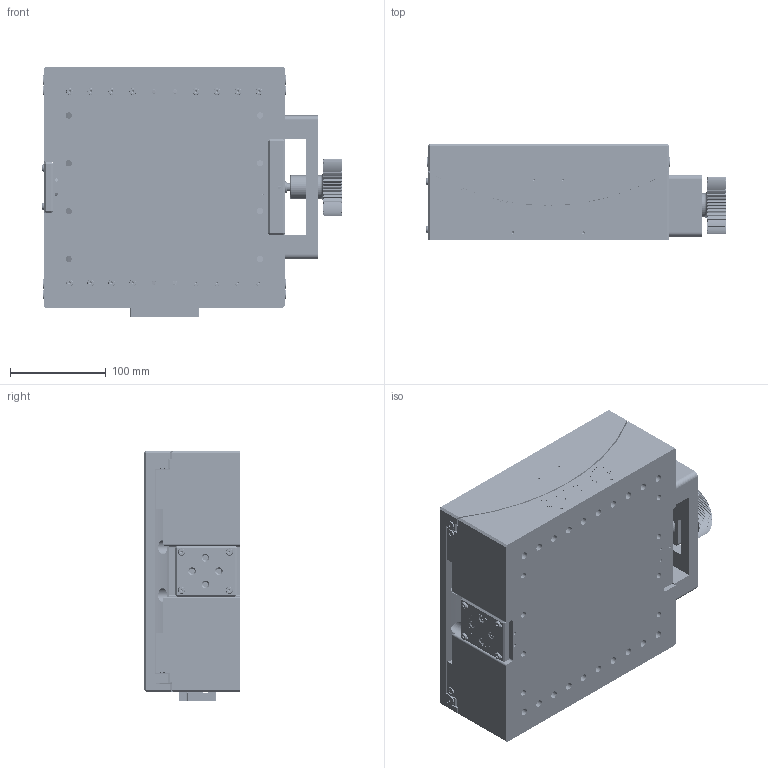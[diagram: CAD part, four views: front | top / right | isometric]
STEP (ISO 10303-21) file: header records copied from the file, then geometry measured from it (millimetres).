
FILE_DESCRIPTION (( 'STEP AP203' ), '1' );
FILE_NAME ('PT-GD280（手动）.STEP', '2026-06-11T05:56:15', ( '' ), ( '' ), 'SwSTEP 2.0', 'SolidWorks 2025', '' );
FILE_SCHEMA (( 'CONFIG_CONTROL_DESIGN' ));
Length unit declared in the file: millimetre
Products named in the file (32): GJ-BZ-000X00-A2-M004-R0 底座_默认<按加工>; GJ-BZ-000X00-A2-M025-R0 锁紧块_默认<按加工>; M3×4×10头颈#碳钢 内六角扁平大头螺钉_默认<按加工>; GJ-BZ-000X00-A1-M007-R1 轴挡2_默认<按加工>; S6801ZZ 深沟球轴承_默认<按加工>; GJ-BZ-000X00-A1-M017-R1 机械限位2_默认<按加工>; GJ-BZ-000X00-A1-M019-R0 4-L252-R225弧形轨_默认<按加工>; GBT70.2#M4×16#SUS304 内六角平圆头螺钉; GJ-BZ-000X00-A1-M001-R1 1模蜗杆_默认<按加工>; GJ-BZ-000X00-A1-M006-R0 轴端挡盖_默认<按加工>; GBT70.1#M4×16#SUS304 内六角圆柱头螺钉; GBT70.1#M6×20#SUS304 内六角圆柱头螺钉; GJ-BZ-000X00-A1-M002-R0 1模蜗轮_默认<按加工>; R-M12×1.5P R型径向锁紧螺母_默认<按加工>; GJ-BZ-000X00-A1-M020-R0 4-L252R225±15°钢珠保持架_默认<按加工>; GBT70.1#M4×10#SUS304 内六角圆柱头螺钉; GBT70.1#M6×15#SUS304 内六角圆柱头螺钉; GJ-BZ-000X00-A1-M016-R1 机械限位1_默认<按加工>; GBT 8 65Mn 0.8厚轴端挡片_默认<按加工>; GBT819.2#M3×8#SUS304 十字槽沉头螺钉; GB／T 70．1-2000[内六角圆柱头螺钉M6×16]; GBT70.1#M4×20#SUS304 内六角圆柱头螺钉; 4mm钢柱_默认<按加工>; GBT77#M4×10#碳钢 内六角平端紧定螺钉; GJ-BZ-000X00-A2-M010-R0 手轮; GJ-BZ-000X00-A1-M005-R0 轴挡1_默认<按加工>; GJ-BZ-000X00-A1-M008-R0 轴挡3_默认<按加工>; GJ-BZ-000X00-A1-M003-R2 上座_默认<按加工>; GBT70.1#M4×30#SUS304 内六角圆柱头螺钉; 7001角接触轴承_默认<按加工>; GBT70.1#M4×25#SUS304 内六角圆柱头螺钉; PT-GD280（手动）
Assembly tree (87 placements, depth 2):
  PT-GD280（手动）
    GJ-BZ-000X00-A1-M001-R1 1模蜗杆_默认<按加工>
    GJ-BZ-000X00-A1-M002-R0 1模蜗轮_默认<按加工>
    GJ-BZ-000X00-A1-M003-R2 上座_默认<按加工>
    GJ-BZ-000X00-A2-M004-R0 底座_默认<按加工>
    GJ-BZ-000X00-A1-M005-R0 轴挡1_默认<按加工>
    GJ-BZ-000X00-A1-M006-R0 轴端挡盖_默认<按加工>
    GJ-BZ-000X00-A1-M007-R1 轴挡2_默认<按加工>
    GJ-BZ-000X00-A1-M008-R0 轴挡3_默认<按加工>
    GJ-BZ-000X00-A2-M010-R0 手轮
    GJ-BZ-000X00-A1-M016-R1 机械限位1_默认<按加工>
    GJ-BZ-000X00-A1-M017-R1 机械限位2_默认<按加工>
    GJ-BZ-000X00-A1-M019-R0 4-L252-R225弧形轨_默认<按加工>  x4
    GJ-BZ-000X00-A1-M020-R0 4-L252R225±15°钢珠保持架_默认<按加工>
    GJ-BZ-000X00-A2-M025-R0 锁紧块_默认<按加工>
    4mm钢柱_默认<按加工>
    R-M12×1.5P R型径向锁紧螺母_默认<按加工>
    GBT 8 65Mn 0.8厚轴端挡片_默认<按加工>
    S6801ZZ 深沟球轴承_默认<按加工>
    7001角接触轴承_默认<按加工>  x2
    GBT70.1#M6×15#SUS304 内六角圆柱头螺钉  x4
    GBT70.1#M4×10#SUS304 内六角圆柱头螺钉  x4
    GBT70.1#M4×16#SUS304 内六角圆柱头螺钉  x12
    GBT70.2#M4×16#SUS304 内六角平圆头螺钉  x4
    GBT70.1#M4×25#SUS304 内六角圆柱头螺钉  x4
    GBT70.1#M4×20#SUS304 内六角圆柱头螺钉  x8
    GBT70.1#M4×30#SUS304 内六角圆柱头螺钉  x4
    GBT819.2#M3×8#SUS304 十字槽沉头螺钉  x4
    GBT77#M4×10#碳钢 内六角平端紧定螺钉  x4
    GBT70.1#M6×20#SUS304 内六角圆柱头螺钉  x4
    GB／T 70．1-2000[内六角圆柱头螺钉M6×16]  x4
    M3×4×10头颈#碳钢 内六角扁平大头螺钉_默认<按加工>  x8
Bounding box: 314.13 x 100 x 262 mm (x, y, z)
Volume: 5664414.5 mm3; surface area: 706933.9 mm2
Topology: 87 solids, 87 shells, 3962 faces, 9916 edges, 6125 vertices
Faces by surface type: plane 1695, cylinder 1397, cone 516, bspline 228, torus 116, sphere 10
Entity records: 101698 total; most frequent: CARTESIAN_POINT 34134, ORIENTED_EDGE 13322, DIRECTION 12323, EDGE_CURVE 6661, AXIS2_PLACEMENT_3D 4658, VERTEX_POINT 4307, EDGE_LOOP 3220, VECTOR 3007
